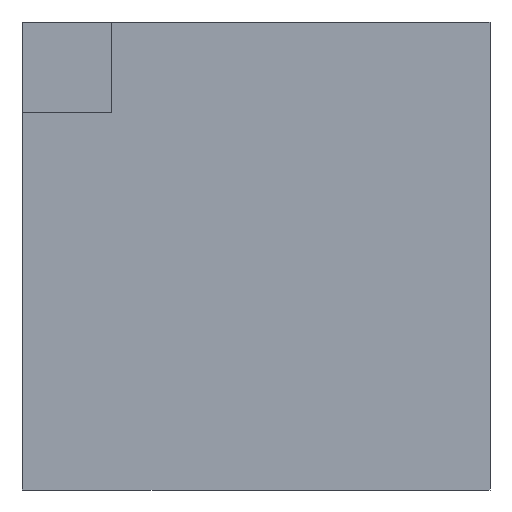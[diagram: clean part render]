
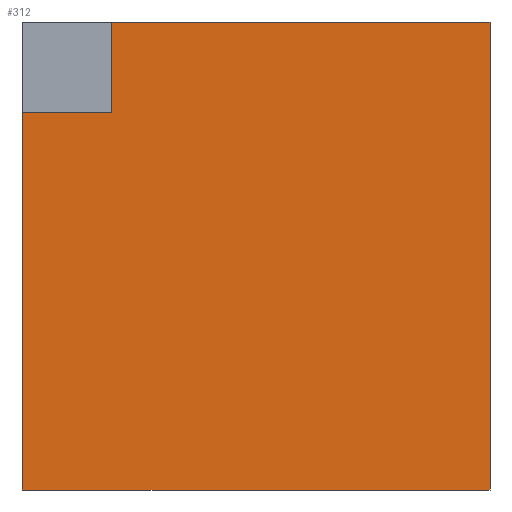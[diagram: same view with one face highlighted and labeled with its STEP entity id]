
A CAD part, front view. The second image highlights one B-rep face of the part: STEP entity #312.
In plain terms, the highlighted planar face has unit normal (0, -1, 0).
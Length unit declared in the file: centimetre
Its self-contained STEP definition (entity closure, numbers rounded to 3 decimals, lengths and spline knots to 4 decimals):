
#26 = CARTESIAN_POINT ( 'NONE',  ( 0., 0., 1000. ) ) ;
#39 = DIRECTION ( 'NONE',  ( 0., 0., 1. ) ) ;
#50 = FACE_OUTER_BOUND ( 'NONE', #94, .T. ) ;
#56 = EDGE_CURVE ( 'NONE', #558, #351, #833, .T. ) ;
#67 = LINE ( 'NONE', #463, #931 ) ;
#77 = VERTEX_POINT ( 'NONE', #235 ) ;
#94 = EDGE_LOOP ( 'NONE', ( #638, #684, #317, #605, #515, #362 ) ) ;
#115 = DIRECTION ( 'NONE',  ( 0., 1., 0. ) ) ;
#129 = CARTESIAN_POINT ( 'NONE',  ( 191.4124, 0., 1000. ) ) ;
#151 = AXIS2_PLACEMENT_3D ( 'NONE', #789, #115, #39 ) ;
#178 = CARTESIAN_POINT ( 'NONE',  ( 0., 0., 0. ) ) ;
#235 = CARTESIAN_POINT ( 'NONE',  ( 1000., 0., 1000. ) ) ;
#238 = LINE ( 'NONE', #956, #901 ) ;
#245 = CARTESIAN_POINT ( 'NONE',  ( 0., 0., 0. ) ) ;
#301 = EDGE_CURVE ( 'NONE', #960, #695, #501, .T. ) ;
#304 = DIRECTION ( 'NONE',  ( 1., 0., 0. ) ) ;
#312 = ADVANCED_FACE ( 'NONE', ( #50 ), #805, .F. ) ;
#317 = ORIENTED_EDGE ( 'NONE', *, *, #341, .F. ) ;
#341 = EDGE_CURVE ( 'NONE', #411, #960, #238, .T. ) ;
#344 = VECTOR ( 'NONE', #607, 100. ) ;
#351 = VERTEX_POINT ( 'NONE', #384 ) ;
#355 = CARTESIAN_POINT ( 'NONE',  ( 1000., 0., 1000. ) ) ;
#362 = ORIENTED_EDGE ( 'NONE', *, *, #729, .F. ) ;
#363 = CARTESIAN_POINT ( 'NONE',  ( 0., 0., 806.2377 ) ) ;
#384 = CARTESIAN_POINT ( 'NONE',  ( 1000., 0., 0. ) ) ;
#404 = EDGE_CURVE ( 'NONE', #695, #77, #67, .T. ) ;
#411 = VERTEX_POINT ( 'NONE', #363 ) ;
#463 = CARTESIAN_POINT ( 'NONE',  ( 0., 0., 1000. ) ) ;
#488 = VECTOR ( 'NONE', #936, 100. ) ;
#499 = LINE ( 'NONE', #355, #776 ) ;
#501 = LINE ( 'NONE', #951, #488 ) ;
#515 = ORIENTED_EDGE ( 'NONE', *, *, #56, .T. ) ;
#542 = DIRECTION ( 'NONE',  ( 0., 0., -1. ) ) ;
#558 = VERTEX_POINT ( 'NONE', #178 ) ;
#605 = ORIENTED_EDGE ( 'NONE', *, *, #621, .T. ) ;
#607 = DIRECTION ( 'NONE',  ( 1., 0., 0. ) ) ;
#621 = EDGE_CURVE ( 'NONE', #411, #558, #921, .T. ) ;
#638 = ORIENTED_EDGE ( 'NONE', *, *, #404, .F. ) ;
#684 = ORIENTED_EDGE ( 'NONE', *, *, #301, .F. ) ;
#695 = VERTEX_POINT ( 'NONE', #129 ) ;
#729 = EDGE_CURVE ( 'NONE', #77, #351, #499, .T. ) ;
#742 = DIRECTION ( 'NONE',  ( 0., 0., -1. ) ) ;
#776 = VECTOR ( 'NONE', #742, 100. ) ;
#789 = CARTESIAN_POINT ( 'NONE',  ( 0., 0., 1000. ) ) ;
#791 = VECTOR ( 'NONE', #542, 100. ) ;
#805 = PLANE ( 'NONE',  #151 ) ;
#818 = DIRECTION ( 'NONE',  ( 1., 0., 0. ) ) ;
#833 = LINE ( 'NONE', #245, #344 ) ;
#842 = CARTESIAN_POINT ( 'NONE',  ( 191.4124, 0., 806.2377 ) ) ;
#901 = VECTOR ( 'NONE', #818, 100. ) ;
#921 = LINE ( 'NONE', #26, #791 ) ;
#931 = VECTOR ( 'NONE', #304, 100. ) ;
#936 = DIRECTION ( 'NONE',  ( 0., 0., 1. ) ) ;
#951 = CARTESIAN_POINT ( 'NONE',  ( 191.4124, 0., 806.2377 ) ) ;
#956 = CARTESIAN_POINT ( 'NONE',  ( 0., 0., 806.2377 ) ) ;
#960 = VERTEX_POINT ( 'NONE', #842 ) ;
